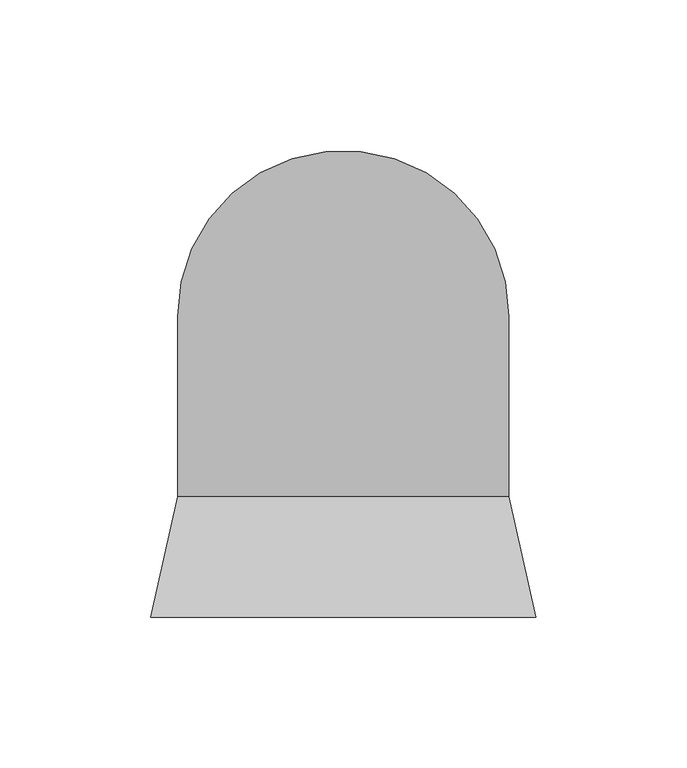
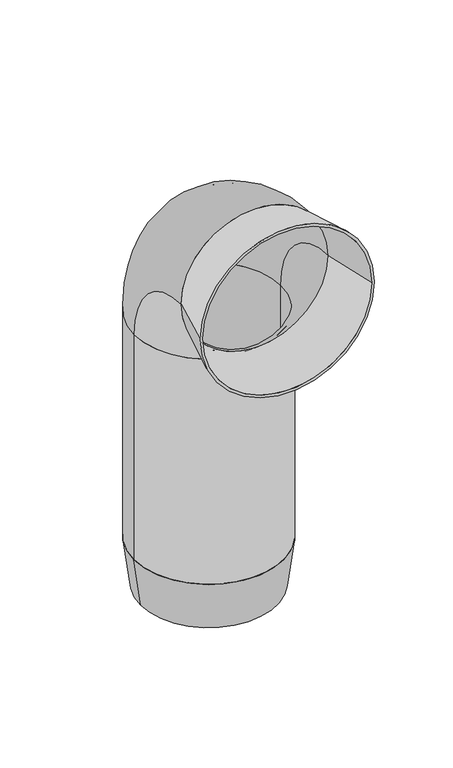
"""IFC4 building model written with IfcOpenShell, lengths in millimetres: sanitary terminal geometry, RSen_52_PIF_UN_wall closet bend 303e_wisa : wall closet bend_wisa_303E."""

from ifc_helpers import new_model, si_unit, point, frame, origin, origin_with_axes, place, context, project, spatial, polyline, circle_curve, ellipse_curve, trimmed, source, transform, mapped, element, save
from ifc_brep_helpers import plane_surface, cylinder_surface, revolved_surface, advanced_brep


def sanitary_terminal_fd07758e(model_context):
    return source(origin(), model_context, "Body", "AdvancedBrep", [
        advanced_brep(
        [(-55.0, 0.0, 37.0), (55.0, 0.0, 37.0), (53.0, 0.0, 37.0), (-53.0, 0.0, 37.0), (-50.0, 0.0, 0.0), (50.0, 0.0, 0.0), (-48.0, 0.0, 0.0), (48.0, 0.0, 0.0)],
        [
            (0, 1, circle_curve(frame((0.0, 0.0, 37.0), z_axis=(0.0, 0.0, 1.0), x_axis=(-1.0, 0.0, 0.0)), 55.0)),
            (1, 0, circle_curve(frame((0.0, 0.0, 37.0), z_axis=(0.0, 0.0, 1.0), x_axis=(1.0, 0.0, 0.0)), 55.0)),
            (2, 3, circle_curve(frame((0.0, 0.0, 37.0), z_axis=(0.0, 0.0, -1.0), x_axis=(-1.0, 0.0, 0.0)), 53.0)),
            (3, 2, circle_curve(frame((0.0, 0.0, 37.0), z_axis=(0.0, 0.0, -1.0), x_axis=(1.0, 0.0, 0.0)), 53.0)),
            (4, 5, circle_curve(frame((0.0, 0.0, 0.0), z_axis=(0.0, 0.0, -1.0), x_axis=(1.0, 0.0, 0.0)), 50.0)),
            (5, 4, circle_curve(frame((0.0, 0.0, 0.0), z_axis=(0.0, 0.0, -1.0), x_axis=(-1.0, 0.0, 0.0)), 50.0)),
            (6, 7, circle_curve(frame((0.0, 0.0, 0.0), z_axis=(0.0, 0.0, 1.0), x_axis=(-1.0, 0.0, 0.0)), 48.0)),
            (7, 6, circle_curve(origin_with_axes(), 48.0)),
            (0, 4),
            (5, 1),
            (6, 3),
            (2, 7),
        ],
        [
            plane_surface(frame((0.0, 0.0, 37.0), z_axis=(0.0, 0.0, 1.0), x_axis=(0.0, -1.0, 0.0))),
            plane_surface(frame((0.0, 0.0, 0.0), z_axis=(0.0, 0.0, -1.0), x_axis=(0.0, -1.0, 0.0))),
            revolved_surface(polyline([(50.0, 0.0, 0.0), (55.0, 0.0, 37.0)]), (0.0, 0.0, -370.0), (0.0, 0.0, 1.0)),
            revolved_surface(polyline([(-50.0, 0.0, 0.0), (-55.0, 0.0, 37.0)]), (0.0, 0.0, -370.0), (0.0, 0.0, 1.0)),
            revolved_surface(polyline([(-53.0, 0.0, 37.0), (-48.0, 0.0, 0.0)]), (0.0, 0.0, -355.2), (0.0, 0.0, 1.0)),
        ],
        [
            (0, [[1, 2], [3, 4]]),
            (1, [[5, 6], [7, 8]]),
            (2, [[-1, 9, -6, 10]]),
            (3, [[-2, -10, -5, -9]]),
            (4, [[11, -3, 12, -7]]),
            (4, [[-11, -8, -12, -4]]),
        ],
    ),
        advanced_brep(
        [(-64.0, -100.0, 272.0), (64.0, -100.0, 272.0), (62.0, -100.0, 272.0), (-62.0, -100.0, 272.0), (-55.0, -60.0, 272.0), (55.0, -60.0, 272.0), (-53.0, -60.0, 272.0), (53.0, -60.0, 272.0)],
        [
            (0, 1, circle_curve(frame((0.0, -100.0, 272.0), z_axis=(0.0, -1.0, 0.0), x_axis=(-1.0, 0.0, 0.0)), 64.0)),
            (1, 0, circle_curve(frame((0.0, -100.0, 272.0), z_axis=(0.0, -1.0, 0.0), x_axis=(1.0, 0.0, 0.0)), 64.0)),
            (2, 3, circle_curve(frame((0.0, -100.0, 272.0), z_axis=(0.0, 1.0, 0.0), x_axis=(-1.0, 0.0, 0.0)), 62.0)),
            (3, 2, circle_curve(frame((0.0, -100.0, 272.0), z_axis=(0.0, 1.0, 0.0), x_axis=(1.0, 0.0, 0.0)), 62.0)),
            (4, 5, circle_curve(frame((0.0, -60.0, 272.0), z_axis=(0.0, 1.0, 0.0), x_axis=(1.0, 0.0, 0.0)), 55.0)),
            (5, 4, circle_curve(frame((0.0, -60.0, 272.0), z_axis=(0.0, 1.0, 0.0), x_axis=(-1.0, 0.0, 0.0)), 55.0)),
            (6, 7, circle_curve(frame((0.0, -60.0, 272.0), z_axis=(0.0, -1.0, 0.0), x_axis=(-1.0, 0.0, 0.0)), 53.0)),
            (7, 6, circle_curve(frame((0.0, -60.0, 272.0), z_axis=(0.0, -1.0, 0.0), x_axis=(1.0, 0.0, 0.0)), 53.0)),
            (0, 4),
            (5, 1),
            (6, 3),
            (2, 7),
        ],
        [
            plane_surface(frame((0.0, -100.0, 272.0), z_axis=(0.0, -1.0, 0.0), x_axis=(0.0, 0.0, -1.0))),
            plane_surface(frame((0.0, -60.0, 272.0), z_axis=(0.0, 1.0, 0.0), x_axis=(0.0, 0.0, -1.0))),
            revolved_surface(polyline([(54.99999999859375, -60.0, 272.0), (64.0, -100.0, 272.0)]), (0.0, 184.4444444, 272.0), (0.0, -1.0, 0.0)),
            revolved_surface(polyline([(-54.99999999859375, -60.0, 272.0), (-64.0, -100.0, 272.0)]), (0.0, 184.4444444, 272.0), (0.0, -1.0, 0.0)),
            revolved_surface(polyline([(-62.0, -100.0, 272.0), (-53.00000000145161, -60.0, 272.0)]), (0.0, 175.5555556, 272.0), (0.0, -1.0, 0.0)),
        ],
        [
            (0, [[1, 2], [3, 4]]),
            (1, [[5, 6], [7, 8]]),
            (2, [[-1, 9, -6, 10]]),
            (3, [[-2, -10, -5, -9]]),
            (4, [[11, -3, 12, -7]]),
            (4, [[-11, -8, -12, -4]]),
        ],
    ),
        advanced_brep(
        [(-55.0, 0.0, 37.0), (55.0, 0.0, 37.0), (-53.0, 0.0, 37.0), (53.0, 0.0, 37.0), (-55.0, 0.0, 212.0), (55.0, 0.0, 212.0), (-55.0, -60.0, 272.0), (55.0, -60.0, 272.0), (-53.0, -60.0, 272.0), (53.0, -60.0, 272.0), (-53.0, 0.0, 212.0), (53.0, 0.0, 212.0)],
        [
            (0, 1, circle_curve(frame((0.0, 0.0, 37.0), z_axis=(0.0, 0.0, -1.0), x_axis=(1.0, 0.0, 0.0)), 55.0)),
            (1, 0, circle_curve(frame((0.0, 0.0, 37.0), z_axis=(0.0, 0.0, -1.0), x_axis=(1.0, 0.0, 0.0)), 55.0)),
            (2, 3, circle_curve(frame((0.0, 0.0, 37.0), z_axis=(0.0, 0.0, 1.0), x_axis=(1.0, 0.0, 0.0)), 53.0)),
            (3, 2, circle_curve(frame((0.0, 0.0, 37.0), z_axis=(0.0, 0.0, 1.0), x_axis=(1.0, 0.0, 0.0)), 53.0)),
            (0, 4),
            (4, 5, circle_curve(frame((0.0, 0.0, 212.0), z_axis=(0.0, 0.0, -1.0), x_axis=(1.0, 0.0, 0.0)), 55.0)),
            (5, 1),
            (5, 4, circle_curve(frame((0.0, 0.0, 212.0), z_axis=(0.0, 0.0, -1.0), x_axis=(1.0, 0.0, 0.0)), 55.0)),
            (6, 7, circle_curve(frame((0.0, -60.0, 272.0), z_axis=(0.0, -1.0, 0.0), x_axis=(1.0, 0.0, 0.0)), 55.0)),
            (7, 6, circle_curve(frame((0.0, -60.0, 272.0), z_axis=(0.0, -1.0, 0.0), x_axis=(1.0, 0.0, 0.0)), 55.0)),
            (8, 9, circle_curve(frame((0.0, -60.0, 272.0), z_axis=(0.0, 1.0, 0.0), x_axis=(1.0, 0.0, 0.0)), 53.0)),
            (9, 8, circle_curve(frame((0.0, -60.0, 272.0), z_axis=(0.0, 1.0, 0.0), x_axis=(1.0, 0.0, 0.0)), 53.0)),
            (7, 5, circle_curve(frame((55.0, -60.0, 212.0), z_axis=(-1.0, 0.0, 0.0), x_axis=(0.0, 1.0, 0.0)), 60.0)),
            (4, 6, circle_curve(frame((-55.0, -60.0, 212.0), z_axis=(1.0, 0.0, 0.0), x_axis=(0.0, 1.0, 0.0)), 60.0)),
            (2, 10),
            (10, 11, circle_curve(frame((0.0, 0.0, 212.0), z_axis=(0.0, 0.0, 1.0), x_axis=(1.0, 0.0, 0.0)), 53.0)),
            (11, 3),
            (11, 10, circle_curve(frame((0.0, 0.0, 212.0), z_axis=(0.0, 0.0, 1.0), x_axis=(1.0, 0.0, 0.0)), 53.0)),
            (9, 11, circle_curve(frame((53.0, -60.0, 212.0), z_axis=(-1.0, 0.0, 0.0), x_axis=(0.0, 1.0, 0.0)), 60.0)),
            (10, 8, circle_curve(frame((-53.0, -60.0, 212.0), z_axis=(1.0, 0.0, 0.0), x_axis=(0.0, 1.0, 0.0)), 60.0)),
        ],
        [
            plane_surface(frame((0.0, 0.0, 37.0), z_axis=(0.0, 0.0, -1.0), x_axis=(1.0, 0.0, 0.0))),
            cylinder_surface(frame((0.0, 0.0, 37.0), z_axis=(0.0, 0.0, -1.0), x_axis=(1.0, 0.0, 0.0)), 55.0),
            plane_surface(frame((0.0, -60.0, 272.0), z_axis=(0.0, -1.0, 0.0), x_axis=(1.0, 0.0, 0.0))),
            revolved_surface(trimmed(ellipse_curve(frame((0.0, 0.0, 212.0), z_axis=(0.0, 0.0, -1.0), x_axis=(1.0, 0.0, 0.0)), 55.0, 55.0), [point((-55.0, 0.0, 212.0))], [point((55.0, 0.0, 212.0))], True, "CARTESIAN"), (0.0, -60.0, 212.0), (1.0, 0.0, 0.0)),
            revolved_surface(trimmed(ellipse_curve(frame((0.0, 0.0, 212.0), z_axis=(0.0, 0.0, -1.0), x_axis=(1.0, 0.0, 0.0)), 55.0, 55.0), [point((55.0, 0.0, 212.0))], [point((-55.0, 0.0, 212.0))], True, "CARTESIAN"), (0.0, -60.0, 212.0), (1.0, 0.0, 0.0)),
            revolved_surface(polyline([(53.0, 0.0, 212.0), (53.0, 0.0, 37.0)]), (0.0, 0.0, 37.0), (0.0, 0.0, 1.0)),
            revolved_surface(trimmed(ellipse_curve(frame((0.0, 0.0, 212.0), z_axis=(0.0, 0.0, 1.0), x_axis=(1.0, 0.0, 0.0)), 53.0, 53.0), [point((-53.0, 0.0, 212.0))], [point((53.0, 0.0, 212.0))], True, "CARTESIAN"), (0.0, -60.0, 212.0), (1.0, 0.0, 0.0)),
            revolved_surface(trimmed(ellipse_curve(frame((0.0, 0.0, 212.0), z_axis=(0.0, 0.0, 1.0), x_axis=(1.0, 0.0, 0.0)), 53.0, 53.0), [point((53.0, 0.0, 212.0))], [point((-53.0, 0.0, 212.0))], True, "CARTESIAN"), (0.0, -60.0, 212.0), (1.0, 0.0, 0.0)),
        ],
        [
            (0, [[1, 2], [3, 4]]),
            (1, [[-1, 5, 6, 7]]),
            (1, [[-2, -7, 8, -5]]),
            (2, [[9, 10], [11, 12]]),
            (3, [[13, -6, 14, -10]]),
            (4, [[-14, -8, -13, -9]]),
            (5, [[-3, 15, 16, 17]]),
            (5, [[-4, -17, 18, -15]]),
            (6, [[19, -16, 20, -12]]),
            (7, [[-20, -18, -19, -11]]),
        ],
    ),
    ])


if __name__ == "__main__":
    model = new_model("IFC4")
    model_context = context("Model", 3, world=origin())
    ifc_project = project(units=[si_unit("LENGTHUNIT", "METRE", prefix="MILLI")], contexts=[model_context])
    site = spatial("IfcSite", under=ifc_project)
    building = spatial("IfcBuilding", under=site)
    placement = place(None, origin())
    sanitary_terminal_shape = sanitary_terminal_fd07758e(model_context)
    element("IfcSanitaryTerminal", 1, ObjectType="RSen_52_PIF_UN_wall closet bend 303e_wisa : wall closet bend_wisa_303E", at=placement, inside=building, context=model_context, shape_type="MappedRepresentation", body=[
        mapped(sanitary_terminal_shape, transform((0.0, 0.0, 0.0), x_axis=(1.0, 0.0, 0.0), y_axis=(0.0, 1.0, 0.0), z_axis=(0.0, 0.0, 1.0))),
    ])
    save(model, "model.ifc")
